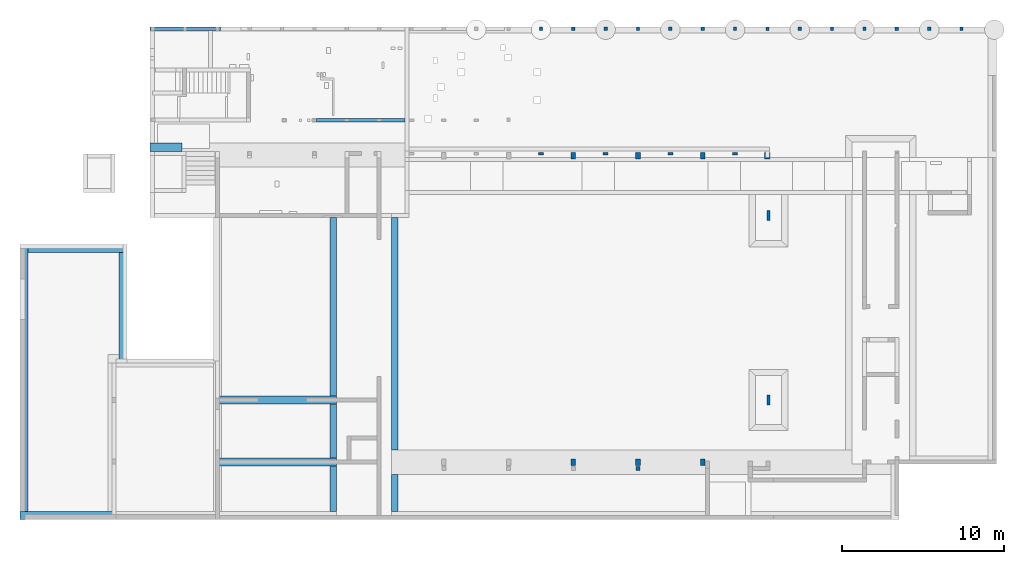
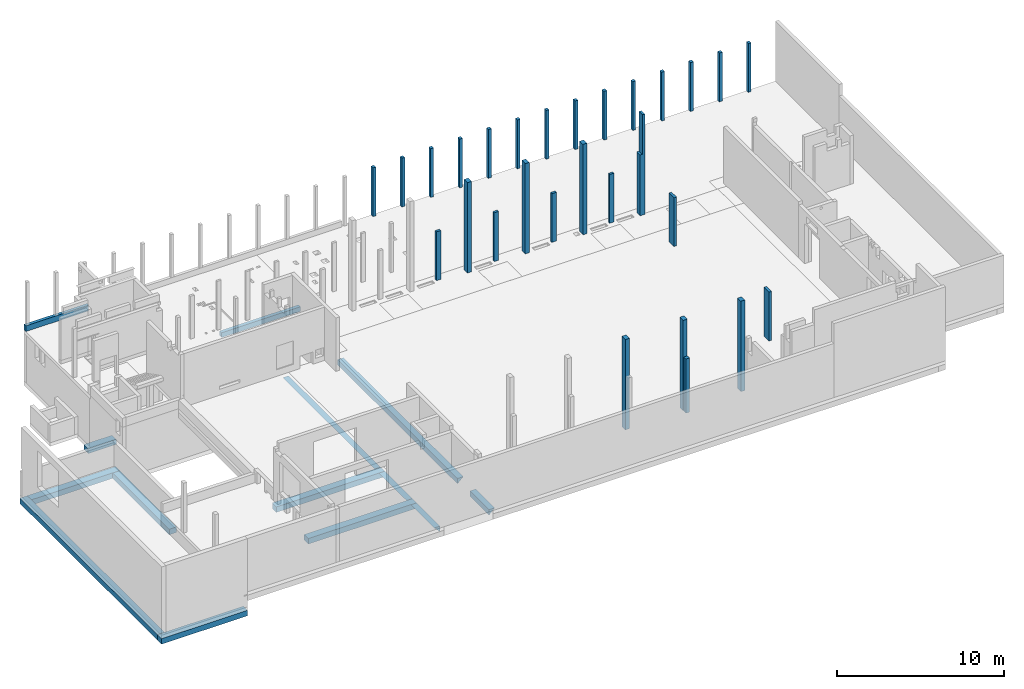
# One storey, part 2 of 12: 28 columns, 11 beams.
"""IFC2X3 building model written with IfcOpenShell, lengths in metres."""

from ifc_helpers import new_model, entity, si_unit, converted_unit, direction, frame, frame_2d, origin, origin_2d_with_axis, place, context, subcontext, project, spatial, polyline, rectangle, outline, extrude, source, transform, mapped, material, type_object, type_shapes, element, save


model = new_model("IFC2X3")

# Units and contexts
model_context = context("Model", 3, precision=1e-05, world=frame((30.086303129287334, 2.687674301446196, 462.0)), true_north=direction((0.19008937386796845, 0.9817667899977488)))
body_context = subcontext(model_context, "Body", "Model", "MODEL_VIEW")
ifc_project = project(units=[si_unit("LENGTHUNIT", "METRE"), si_unit("AREAUNIT", "SQUARE_METRE"), converted_unit("PLANEANGLEUNIT", "DEGREE", entity("IfcPlaneAngleMeasure", 0.017453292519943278), si_unit("PLANEANGLEUNIT", "RADIAN"), dimensions=[0, 0, 0, 0, 0, 0, 0]), si_unit("VOLUMEUNIT", "CUBIC_METRE")], contexts=[model_context])

# Site, building, storey
site_placement = place(None, origin())
site = spatial("IfcSite", under=ifc_project, at=site_placement, Name="Default", CompositionType="ELEMENT")
building_placement = place(site_placement, origin())
building = spatial("IfcBuilding", under=site, at=building_placement, CompositionType="ELEMENT")
storey_placement = place(building_placement, frame((0.0, 0.0, -3.800000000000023)))
storey = spatial("IfcBuildingStorey", under=building, at=storey_placement, Name="FB_U01_OKFB", CompositionType="ELEMENT", Elevation=-3.800000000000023)

# Columns
ifc_material_1 = material(Name="WS_CONCRETE_REINFORCED")
column_type_1 = type_object("IfcColumnType", Name="WS_CCL_REC:CCL_REC_250x250", PredefinedType="COLUMN", material=ifc_material_1)
shared_shape_1 = source(origin(), body_context, "Body", "SweptSolid", [
    extrude(rectangle(XDim=0.25000000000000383, YDim=0.2499999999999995, at=frame_2d((-4.336808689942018e-15, -2.1718737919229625e-15), x_axis=(1.0, 0.0))), frame((76.10533735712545, -20.76455991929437, -0.12), z_axis=(0.0, 0.0, 1.0), x_axis=(-1.0, 0.0, 0.0)), (0.0, 0.0, 1.0), 3.969999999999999),
])
type_shapes(column_type_1, [shared_shape_1])
column_1_placement = place(storey_placement, frame((0.0, 0.0, 3.800000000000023)))
element("IfcColumn", 1, at=column_1_placement, inside=storey, type_object=column_type_1, material=ifc_material_1, Name="WS_CCL_REC:CCL_REC_250x250", ObjectType="WS_CCL_REC:CCL_REC_250x250", context=body_context, shape_type="MappedRepresentation", body=[
    mapped(shared_shape_1, transform((0.0, 0.0, 0.0), scale=1.0)),
])
ifc_material_2 = material(Name="WS_TIMBER_GLT_0°")
column_type_2 = type_object("IfcColumnType", Name="WS_TCL_GLT:TCL_GLT_200x220", PredefinedType="COLUMN", material=ifc_material_2)
shared_shape_2 = source(origin(), body_context, "Body", "SweptSolid", [
    extrude(rectangle(XDim=0.19999999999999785, YDim=0.2199999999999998, at=frame_2d((4.3298697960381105e-15, 0.0), x_axis=(1.0, 0.0))), frame((70.10533822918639, 6.420351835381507, -0.12), z_axis=(0.0, 0.0, 1.0), x_axis=(-1.0, 0.0, 0.0)), (0.0, 0.0, 1.0), 3.5749999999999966),
])
type_shapes(column_type_2, [shared_shape_2])
column_2_placement = place(storey_placement, frame((0.0, 0.0, 3.800000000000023)))
element("IfcColumn", 2, at=column_2_placement, inside=storey, type_object=column_type_2, material=ifc_material_2, Name="WS_TCL_GLT:TCL_GLT_200x220", ObjectType="WS_TCL_GLT:TCL_GLT_200x220", context=body_context, shape_type="MappedRepresentation", body=[
    mapped(shared_shape_2, transform((0.0, 0.0, 0.0), scale=1.0)),
])
ifc_material_3 = material(Name="WS_TIMBER_GLT_90°")
column_type_3 = type_object("IfcColumnType", Name="WS_TCL_GLT:TCL_GLT_160/300", PredefinedType="COLUMN", material=ifc_material_3)
shared_shape_3 = source(origin(), body_context, "Body", "SweptSolid", [
    extrude(rectangle(XDim=0.15999999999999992, YDim=0.3000000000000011, at=frame_2d((1.3183898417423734e-16, 0.0), x_axis=(1.0, 0.0))), frame((82.10533693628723, -1.314602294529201, -0.12), z_axis=(0.0, 0.0, 1.0), x_axis=(0.0, -1.0, 0.0)), (0.0, 0.0, 1.0), 3.5749999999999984),
])
type_shapes(column_type_3, [shared_shape_3])
column_3_placement = place(storey_placement, frame((0.0, 0.0, 3.800000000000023)))
element("IfcColumn", 3, at=column_3_placement, inside=storey, type_object=column_type_3, material=ifc_material_3, Name="WS_TCL_GLT:TCL_GLT_160/300", ObjectType="WS_TCL_GLT:TCL_GLT_160/300", context=body_context, shape_type="MappedRepresentation", body=[
    mapped(shared_shape_3, transform((0.0, 0.0, 0.0), scale=1.0)),
])
column_type_4 = type_object("IfcColumnType", Name="WS_TCL_GLT:TCL_GLT_280x400", PredefinedType="COLUMN", material=ifc_material_2)
shared_shape_4 = source(origin(), body_context, "Body", "SweptSolid", [
    extrude(rectangle(XDim=0.4, YDim=0.279999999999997, at=origin_2d_with_axis()), frame((76.1053391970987, -1.434602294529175, -0.12), z_axis=(0.0, 0.0, 1.0), x_axis=(0.0, -1.0, 0.0)), (0.0, 0.0, 1.0), 6.62),
])
type_shapes(column_type_4, [shared_shape_4])
column_4_placement = place(storey_placement, frame((0.0, 0.0, 3.800000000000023)))
element("IfcColumn", 4, at=column_4_placement, inside=storey, type_object=column_type_4, material=ifc_material_2, Name="WS_TCL_GLT:TCL_GLT_280x400", ObjectType="WS_TCL_GLT:TCL_GLT_280x400", context=body_context, shape_type="MappedRepresentation", body=[
    mapped(shared_shape_4, transform((0.0, 0.0, 0.0), scale=1.0)),
])
column_type_5 = type_object("IfcColumnType", Name="WS_TCL_GLT:TCL_GLT_280x400", PredefinedType="COLUMN", material=ifc_material_2)
shared_shape_5 = source(origin(), body_context, "Body", "SweptSolid", [
    extrude(rectangle(XDim=0.4, YDim=0.28000000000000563, at=origin_2d_with_axis()), frame((80.10533919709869, -1.434602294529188, -0.12), z_axis=(0.0, 0.0, 1.0), x_axis=(0.0, -1.0, 0.0)), (0.0, 0.0, 1.0), 6.62),
])
type_shapes(column_type_5, [shared_shape_5])
column_5_placement = place(storey_placement, frame((0.0, 0.0, 3.800000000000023)))
element("IfcColumn", 5, at=column_5_placement, inside=storey, type_object=column_type_5, material=ifc_material_2, Name="WS_TCL_GLT:TCL_GLT_280x400", ObjectType="WS_TCL_GLT:TCL_GLT_280x400", context=body_context, shape_type="MappedRepresentation", body=[
    mapped(shared_shape_5, transform((0.0, 0.0, 0.0), scale=1.0)),
])
column_type_6 = type_object("IfcColumnType", Name="WS_TCL_GLT:TCL_GLT_330x400", PredefinedType="COLUMN", material=ifc_material_2)
shared_shape_6 = source(origin(), body_context, "Body", "SweptSolid", [
    extrude(outline(polyline([(-3.938333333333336, -0.15999999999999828), (0.5166666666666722, -0.15999999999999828), (0.5166666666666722, -0.009999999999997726), (3.4216666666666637, -0.009999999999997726), (3.4216666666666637, 0.16999999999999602), (-3.938333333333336, 0.16999999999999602), (-3.938333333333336, -0.15999999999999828)])), frame((84.0853391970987, -1.6346022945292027, 3.8183333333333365), z_axis=(0.0, 1.0, 0.0), x_axis=(0.0, 0.0, 1.0)), (0.0, 0.0, 1.0), 0.4),
])
type_shapes(column_type_6, [shared_shape_6])
column_6_placement = place(storey_placement, frame((0.0, 0.0, 3.800000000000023)))
element("IfcColumn", 6, at=column_6_placement, inside=storey, type_object=column_type_6, material=ifc_material_2, Name="WS_TCL_GLT:TCL_GLT_330x400", ObjectType="WS_TCL_GLT:TCL_GLT_330x400", context=body_context, shape_type="MappedRepresentation", body=[
    mapped(shared_shape_6, transform((0.0, 0.0, 0.0), scale=1.0)),
])
column_type_7 = type_object("IfcColumnType", Name="WS_TCL_GLT:TCL_GLT_280x400", PredefinedType="COLUMN", material=ifc_material_2)
shared_shape_7 = source(origin(), body_context, "Body", "SweptSolid", [
    extrude(rectangle(XDim=0.4, YDim=0.279999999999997, at=origin_2d_with_axis()), frame((72.10533919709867, -1.4346022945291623, -0.12), z_axis=(0.0, 0.0, 1.0), x_axis=(0.0, -1.0, 0.0)), (0.0, 0.0, 1.0), 6.62),
])
type_shapes(column_type_7, [shared_shape_7])
column_7_placement = place(storey_placement, frame((0.0, 0.0, 3.800000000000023)))
element("IfcColumn", 7, at=column_7_placement, inside=storey, type_object=column_type_7, material=ifc_material_2, Name="WS_TCL_GLT:TCL_GLT_280x400", ObjectType="WS_TCL_GLT:TCL_GLT_280x400", context=body_context, shape_type="MappedRepresentation", body=[
    mapped(shared_shape_7, transform((0.0, 0.0, 0.0), scale=1.0)),
])
column_type_8 = type_object("IfcColumnType", Name="WS_TCL_GLT:TCL_GLT_280x400", PredefinedType="COLUMN", material=ifc_material_2)
shared_shape_8 = source(origin(), body_context, "Body", "SweptSolid", [
    extrude(rectangle(XDim=0.279999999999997, YDim=0.4, at=frame_2d((-4.3298697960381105e-15, 2.1649348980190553e-15), x_axis=(1.0, 0.0))), frame((76.10533919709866, -20.384651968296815, -0.12), z_axis=(0.0, 0.0, 1.0), x_axis=(-1.0, 0.0, 0.0)), (0.0, 0.0, 1.0), 6.62),
])
type_shapes(column_type_8, [shared_shape_8])
column_8_placement = place(storey_placement, frame((0.0, 0.0, 3.800000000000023)))
element("IfcColumn", 8, at=column_8_placement, inside=storey, type_object=column_type_8, material=ifc_material_2, Name="WS_TCL_GLT:TCL_GLT_280x400", ObjectType="WS_TCL_GLT:TCL_GLT_280x400", context=body_context, shape_type="MappedRepresentation", body=[
    mapped(shared_shape_8, transform((0.0, 0.0, 0.0), scale=1.0)),
])
column_type_9 = type_object("IfcColumnType", Name="WS_TCL_GLT:TCL_GLT_280x400", PredefinedType="COLUMN", material=ifc_material_2)
shared_shape_9 = source(origin(), body_context, "Body", "SweptSolid", [
    extrude(rectangle(XDim=0.28000000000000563, YDim=0.4, at=frame_2d((0.0, 2.1649348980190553e-15), x_axis=(1.0, 0.0))), frame((80.10533919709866, -20.384651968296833, -0.12), z_axis=(0.0, 0.0, 1.0), x_axis=(-1.0, 0.0, 0.0)), (0.0, 0.0, 1.0), 6.62),
])
type_shapes(column_type_9, [shared_shape_9])
column_9_placement = place(storey_placement, frame((0.0, 0.0, 3.800000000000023)))
element("IfcColumn", 9, at=column_9_placement, inside=storey, type_object=column_type_9, material=ifc_material_2, Name="WS_TCL_GLT:TCL_GLT_280x400", ObjectType="WS_TCL_GLT:TCL_GLT_280x400", context=body_context, shape_type="MappedRepresentation", body=[
    mapped(shared_shape_9, transform((0.0, 0.0, 0.0), scale=1.0)),
])
column_type_10 = type_object("IfcColumnType", Name="WS_TCL_GLT:TCL_GLT_280x400", PredefinedType="COLUMN", material=ifc_material_2)
shared_shape_10 = source(origin(), body_context, "Body", "SweptSolid", [
    extrude(rectangle(XDim=0.279999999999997, YDim=0.4, at=frame_2d((-4.3298697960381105e-15, -2.1649348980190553e-15), x_axis=(1.0, 0.0))), frame((72.10533919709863, -20.38465196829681, -0.12), z_axis=(0.0, 0.0, 1.0), x_axis=(-1.0, 0.0, 0.0)), (0.0, 0.0, 1.0), 6.62),
])
type_shapes(column_type_10, [shared_shape_10])
column_10_placement = place(storey_placement, frame((0.0, 0.0, 3.800000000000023)))
element("IfcColumn", 10, at=column_10_placement, inside=storey, type_object=column_type_10, material=ifc_material_2, Name="WS_TCL_GLT:TCL_GLT_280x400", ObjectType="WS_TCL_GLT:TCL_GLT_280x400", context=body_context, shape_type="MappedRepresentation", body=[
    mapped(shared_shape_10, transform((0.0, 0.0, 0.0), scale=1.0)),
])
column_type_11 = type_object("IfcColumnType", Name="WS_TCL_GLT:TCL_GLT_180x600", PredefinedType="COLUMN", material=ifc_material_2)
shared_shape_11 = source(origin(), body_context, "Body", "SweptSolid", [
    extrude(rectangle(XDim=0.6000000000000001, YDim=0.17999999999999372, at=origin_2d_with_axis()), frame((84.16533919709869, -5.134602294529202, -0.12), z_axis=(0.0, 0.0, 1.0), x_axis=(0.0, -1.0, 0.0)), (0.0, 0.0, 1.0), 3.5749999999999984),
])
type_shapes(column_type_11, [shared_shape_11])
column_11_placement = place(storey_placement, frame((0.0, 0.0, 3.800000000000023)))
element("IfcColumn", 11, at=column_11_placement, inside=storey, type_object=column_type_11, material=ifc_material_2, Name="WS_TCL_GLT:TCL_GLT_180x600", ObjectType="WS_TCL_GLT:TCL_GLT_180x600", context=body_context, shape_type="MappedRepresentation", body=[
    mapped(shared_shape_11, transform((0.0, 0.0, 0.0), scale=1.0)),
])
column_type_12 = type_object("IfcColumnType", Name="WS_TCL_GLT:TCL_GLT_180x600", PredefinedType="COLUMN", material=ifc_material_2)
shared_shape_12 = source(origin(), body_context, "Body", "SweptSolid", [
    extrude(rectangle(XDim=0.6000000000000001, YDim=0.17999999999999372, at=frame_2d((2.1649348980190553e-15, 0.0), x_axis=(1.0, 0.0))), frame((84.16533919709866, -16.534601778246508, -0.12), z_axis=(0.0, 0.0, 1.0), x_axis=(0.0, -1.0, 0.0)), (0.0, 0.0, 1.0), 3.5749999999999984),
])
type_shapes(column_type_12, [shared_shape_12])
column_12_placement = place(storey_placement, frame((0.0, 0.0, 3.800000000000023)))
element("IfcColumn", 12, at=column_12_placement, inside=storey, type_object=column_type_12, material=ifc_material_2, Name="WS_TCL_GLT:TCL_GLT_180x600", ObjectType="WS_TCL_GLT:TCL_GLT_180x600", context=body_context, shape_type="MappedRepresentation", body=[
    mapped(shared_shape_12, transform((0.0, 0.0, 0.0), scale=1.0)),
])
column_type_13 = type_object("IfcColumnType", Name="WS_TCL_GLT:TCL_GLT_200x220", PredefinedType="COLUMN", material=ifc_material_2)
shared_shape_13 = source(origin(), body_context, "Body", "SweptSolid", [
    extrude(rectangle(XDim=0.19999999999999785, YDim=0.2199999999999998, at=frame_2d((4.3298697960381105e-15, 0.0), x_axis=(1.0, 0.0))), frame((72.10533597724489, 6.420351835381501, -0.12), z_axis=(0.0, 0.0, 1.0), x_axis=(-1.0, 0.0, 0.0)), (0.0, 0.0, 1.0), 3.5749999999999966),
])
type_shapes(column_type_13, [shared_shape_13])
column_13_placement = place(storey_placement, frame((0.0, 0.0, 3.800000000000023)))
element("IfcColumn", 13, at=column_13_placement, inside=storey, type_object=column_type_13, material=ifc_material_2, Name="WS_TCL_GLT:TCL_GLT_200x220", ObjectType="WS_TCL_GLT:TCL_GLT_200x220", context=body_context, shape_type="MappedRepresentation", body=[
    mapped(shared_shape_13, transform((0.0, 0.0, 0.0), scale=1.0)),
])
column_type_14 = type_object("IfcColumnType", Name="WS_TCL_GLT:TCL_GLT_200x220", PredefinedType="COLUMN", material=ifc_material_2)
shared_shape_14 = source(origin(), body_context, "Body", "SweptSolid", [
    extrude(rectangle(XDim=0.19999999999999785, YDim=0.2199999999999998, at=frame_2d((4.3298697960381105e-15, 0.0), x_axis=(1.0, 0.0))), frame((76.10533597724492, 6.420351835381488, -0.12), z_axis=(0.0, 0.0, 1.0), x_axis=(-1.0, 0.0, 0.0)), (0.0, 0.0, 1.0), 3.5749999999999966),
])
type_shapes(column_type_14, [shared_shape_14])
column_14_placement = place(storey_placement, frame((0.0, 0.0, 3.800000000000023)))
element("IfcColumn", 14, at=column_14_placement, inside=storey, type_object=column_type_14, material=ifc_material_2, Name="WS_TCL_GLT:TCL_GLT_200x220", ObjectType="WS_TCL_GLT:TCL_GLT_200x220", context=body_context, shape_type="MappedRepresentation", body=[
    mapped(shared_shape_14, transform((0.0, 0.0, 0.0), scale=1.0)),
])
column_type_15 = type_object("IfcColumnType", Name="WS_TCL_GLT:TCL_GLT_200x220", PredefinedType="COLUMN", material=ifc_material_2)
shared_shape_15 = source(origin(), body_context, "Body", "SweptSolid", [
    extrude(rectangle(XDim=0.2000000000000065, YDim=0.2199999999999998, at=frame_2d((-8.659739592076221e-15, 0.0), x_axis=(1.0, 0.0))), frame((80.10533597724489, 6.420351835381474, -0.12), z_axis=(0.0, 0.0, 1.0), x_axis=(-1.0, 0.0, 0.0)), (0.0, 0.0, 1.0), 3.5749999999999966),
])
type_shapes(column_type_15, [shared_shape_15])
column_15_placement = place(storey_placement, frame((0.0, 0.0, 3.800000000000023)))
element("IfcColumn", 15, at=column_15_placement, inside=storey, type_object=column_type_15, material=ifc_material_2, Name="WS_TCL_GLT:TCL_GLT_200x220", ObjectType="WS_TCL_GLT:TCL_GLT_200x220", context=body_context, shape_type="MappedRepresentation", body=[
    mapped(shared_shape_15, transform((0.0, 0.0, 0.0), scale=1.0)),
])
column_type_16 = type_object("IfcColumnType", Name="WS_TCL_GLT:TCL_GLT_200x220", PredefinedType="COLUMN", material=ifc_material_2)
shared_shape_16 = source(origin(), body_context, "Body", "SweptSolid", [
    extrude(rectangle(XDim=0.2000000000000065, YDim=0.2199999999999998, at=frame_2d((-8.659739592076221e-15, 0.0), x_axis=(1.0, 0.0))), frame((84.10533597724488, 6.420351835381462, -0.12), z_axis=(0.0, 0.0, 1.0), x_axis=(-1.0, 0.0, 0.0)), (0.0, 0.0, 1.0), 3.5749999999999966),
])
type_shapes(column_type_16, [shared_shape_16])
column_16_placement = place(storey_placement, frame((0.0, 0.0, 3.800000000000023)))
element("IfcColumn", 16, at=column_16_placement, inside=storey, type_object=column_type_16, material=ifc_material_2, Name="WS_TCL_GLT:TCL_GLT_200x220", ObjectType="WS_TCL_GLT:TCL_GLT_200x220", context=body_context, shape_type="MappedRepresentation", body=[
    mapped(shared_shape_16, transform((0.0, 0.0, 0.0), scale=1.0)),
])
column_type_17 = type_object("IfcColumnType", Name="WS_TCL_GLT:TCL_GLT_200x220", PredefinedType="COLUMN", material=ifc_material_2)
shared_shape_17 = source(origin(), body_context, "Body", "SweptSolid", [
    extrude(rectangle(XDim=0.2000000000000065, YDim=0.2199999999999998, at=frame_2d((-8.659739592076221e-15, 0.0), x_axis=(1.0, 0.0))), frame((90.1053359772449, 6.420351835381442, -0.12), z_axis=(0.0, 0.0, 1.0), x_axis=(-1.0, 0.0, 0.0)), (0.0, 0.0, 1.0), 3.5749999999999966),
])
type_shapes(column_type_17, [shared_shape_17])
column_17_placement = place(storey_placement, frame((0.0, 0.0, 3.800000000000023)))
element("IfcColumn", 17, at=column_17_placement, inside=storey, type_object=column_type_17, material=ifc_material_2, Name="WS_TCL_GLT:TCL_GLT_200x220", ObjectType="WS_TCL_GLT:TCL_GLT_200x220", context=body_context, shape_type="MappedRepresentation", body=[
    mapped(shared_shape_17, transform((0.0, 0.0, 0.0), scale=1.0)),
])
column_type_18 = type_object("IfcColumnType", Name="WS_TCL_GLT:TCL_GLT_200x220", PredefinedType="COLUMN", material=ifc_material_2)
shared_shape_18 = source(origin(), body_context, "Body", "SweptSolid", [
    extrude(rectangle(XDim=0.2000000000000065, YDim=0.2199999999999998, at=frame_2d((-8.659739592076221e-15, 0.0), x_axis=(1.0, 0.0))), frame((92.10533597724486, 6.420351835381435, -0.12), z_axis=(0.0, 0.0, 1.0), x_axis=(-1.0, 0.0, 0.0)), (0.0, 0.0, 1.0), 3.5749999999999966),
])
type_shapes(column_type_18, [shared_shape_18])
column_18_placement = place(storey_placement, frame((0.0, 0.0, 3.800000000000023)))
element("IfcColumn", 18, at=column_18_placement, inside=storey, type_object=column_type_18, material=ifc_material_2, Name="WS_TCL_GLT:TCL_GLT_200x220", ObjectType="WS_TCL_GLT:TCL_GLT_200x220", context=body_context, shape_type="MappedRepresentation", body=[
    mapped(shared_shape_18, transform((0.0, 0.0, 0.0), scale=1.0)),
])
column_type_19 = type_object("IfcColumnType", Name="WS_TCL_GLT:TCL_GLT_200x220", PredefinedType="COLUMN", material=ifc_material_2)
shared_shape_19 = source(origin(), body_context, "Body", "SweptSolid", [
    extrude(rectangle(XDim=0.19999999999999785, YDim=0.2199999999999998, at=frame_2d((4.3298697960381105e-15, 0.0), x_axis=(1.0, 0.0))), frame((74.1053382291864, 6.420351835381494, -0.12), z_axis=(0.0, 0.0, 1.0), x_axis=(-1.0, 0.0, 0.0)), (0.0, 0.0, 1.0), 3.5749999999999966),
])
type_shapes(column_type_19, [shared_shape_19])
column_19_placement = place(storey_placement, frame((0.0, 0.0, 3.800000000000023)))
element("IfcColumn", 19, at=column_19_placement, inside=storey, type_object=column_type_19, material=ifc_material_2, Name="WS_TCL_GLT:TCL_GLT_200x220", ObjectType="WS_TCL_GLT:TCL_GLT_200x220", context=body_context, shape_type="MappedRepresentation", body=[
    mapped(shared_shape_19, transform((0.0, 0.0, 0.0), scale=1.0)),
])
column_type_20 = type_object("IfcColumnType", Name="WS_TCL_GLT:TCL_GLT_200x220", PredefinedType="COLUMN", material=ifc_material_2)
shared_shape_20 = source(origin(), body_context, "Body", "SweptSolid", [
    extrude(rectangle(XDim=0.19999999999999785, YDim=0.2199999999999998, at=frame_2d((4.3298697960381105e-15, 0.0), x_axis=(1.0, 0.0))), frame((78.1053382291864, 6.4203518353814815, -0.12), z_axis=(0.0, 0.0, 1.0), x_axis=(-1.0, 0.0, 0.0)), (0.0, 0.0, 1.0), 3.5749999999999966),
])
type_shapes(column_type_20, [shared_shape_20])
column_20_placement = place(storey_placement, frame((0.0, 0.0, 3.800000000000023)))
element("IfcColumn", 20, at=column_20_placement, inside=storey, type_object=column_type_20, material=ifc_material_2, Name="WS_TCL_GLT:TCL_GLT_200x220", ObjectType="WS_TCL_GLT:TCL_GLT_200x220", context=body_context, shape_type="MappedRepresentation", body=[
    mapped(shared_shape_20, transform((0.0, 0.0, 0.0), scale=1.0)),
])
column_type_21 = type_object("IfcColumnType", Name="WS_TCL_GLT:TCL_GLT_200x220", PredefinedType="COLUMN", material=ifc_material_2)
shared_shape_21 = source(origin(), body_context, "Body", "SweptSolid", [
    extrude(rectangle(XDim=0.2000000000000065, YDim=0.2199999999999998, at=frame_2d((-8.659739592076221e-15, 0.0), x_axis=(1.0, 0.0))), frame((82.10533822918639, 6.420351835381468, -0.12), z_axis=(0.0, 0.0, 1.0), x_axis=(-1.0, 0.0, 0.0)), (0.0, 0.0, 1.0), 3.5749999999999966),
])
type_shapes(column_type_21, [shared_shape_21])
column_21_placement = place(storey_placement, frame((0.0, 0.0, 3.800000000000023)))
element("IfcColumn", 21, at=column_21_placement, inside=storey, type_object=column_type_21, material=ifc_material_2, Name="WS_TCL_GLT:TCL_GLT_200x220", ObjectType="WS_TCL_GLT:TCL_GLT_200x220", context=body_context, shape_type="MappedRepresentation", body=[
    mapped(shared_shape_21, transform((0.0, 0.0, 0.0), scale=1.0)),
])
column_type_22 = type_object("IfcColumnType", Name="WS_TCL_GLT:TCL_GLT_200x220", PredefinedType="COLUMN", material=ifc_material_2)
shared_shape_22 = source(origin(), body_context, "Body", "SweptSolid", [
    extrude(rectangle(XDim=0.2000000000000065, YDim=0.2199999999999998, at=frame_2d((-8.659739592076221e-15, 0.0), x_axis=(1.0, 0.0))), frame((88.10533822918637, 6.420351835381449, -0.12), z_axis=(0.0, 0.0, 1.0), x_axis=(-1.0, 0.0, 0.0)), (0.0, 0.0, 1.0), 3.5749999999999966),
])
type_shapes(column_type_22, [shared_shape_22])
column_22_placement = place(storey_placement, frame((0.0, 0.0, 3.800000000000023)))
element("IfcColumn", 22, at=column_22_placement, inside=storey, type_object=column_type_22, material=ifc_material_2, Name="WS_TCL_GLT:TCL_GLT_200x220", ObjectType="WS_TCL_GLT:TCL_GLT_200x220", context=body_context, shape_type="MappedRepresentation", body=[
    mapped(shared_shape_22, transform((0.0, 0.0, 0.0), scale=1.0)),
])
column_type_23 = type_object("IfcColumnType", Name="WS_TCL_GLT:TCL_GLT_200x220", PredefinedType="COLUMN", material=ifc_material_2)
shared_shape_23 = source(origin(), body_context, "Body", "SweptSolid", [
    extrude(rectangle(XDim=0.2000000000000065, YDim=0.2199999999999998, at=frame_2d((-8.659739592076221e-15, 0.0), x_axis=(1.0, 0.0))), frame((86.10533822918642, 6.420351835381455, -0.12), z_axis=(0.0, 0.0, 1.0), x_axis=(-1.0, 0.0, 0.0)), (0.0, 0.0, 1.0), 3.5749999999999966),
])
type_shapes(column_type_23, [shared_shape_23])
column_23_placement = place(storey_placement, frame((0.0, 0.0, 3.800000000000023)))
element("IfcColumn", 23, at=column_23_placement, inside=storey, type_object=column_type_23, material=ifc_material_2, Name="WS_TCL_GLT:TCL_GLT_200x220", ObjectType="WS_TCL_GLT:TCL_GLT_200x220", context=body_context, shape_type="MappedRepresentation", body=[
    mapped(shared_shape_23, transform((0.0, 0.0, 0.0), scale=1.0)),
])
column_type_24 = type_object("IfcColumnType", Name="WS_TCL_GLT:TCL_GLT_200x220", PredefinedType="COLUMN", material=ifc_material_2)
shared_shape_24 = source(origin(), body_context, "Body", "SweptSolid", [
    extrude(rectangle(XDim=0.2000000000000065, YDim=0.2199999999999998, at=frame_2d((-8.659739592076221e-15, 0.0), x_axis=(1.0, 0.0))), frame((94.10533609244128, 6.420351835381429, -0.12), z_axis=(0.0, 0.0, 1.0), x_axis=(-1.0, 0.0, 0.0)), (0.0, 0.0, 1.0), 3.5749999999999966),
])
type_shapes(column_type_24, [shared_shape_24])
column_24_placement = place(storey_placement, frame((0.0, 0.0, 3.800000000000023)))
element("IfcColumn", 24, at=column_24_placement, inside=storey, type_object=column_type_24, material=ifc_material_2, Name="WS_TCL_GLT:TCL_GLT_200x220", ObjectType="WS_TCL_GLT:TCL_GLT_200x220", context=body_context, shape_type="MappedRepresentation", body=[
    mapped(shared_shape_24, transform((0.0, 0.0, 0.0), scale=1.0)),
])
column_type_25 = type_object("IfcColumnType", Name="WS_TCL_GLT:TCL_GLT_200x220", PredefinedType="COLUMN", material=ifc_material_2)
shared_shape_25 = source(origin(), body_context, "Body", "SweptSolid", [
    extrude(rectangle(XDim=0.2000000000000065, YDim=0.2199999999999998, at=frame_2d((8.659739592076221e-15, 0.0), x_axis=(1.0, 0.0))), frame((96.10533728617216, 6.420351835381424, -0.12), z_axis=(0.0, 0.0, 1.0), x_axis=(-1.0, 0.0, 0.0)), (0.0, 0.0, 1.0), 3.5749999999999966),
])
type_shapes(column_type_25, [shared_shape_25])
column_25_placement = place(storey_placement, frame((0.0, 0.0, 3.800000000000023)))
element("IfcColumn", 25, at=column_25_placement, inside=storey, type_object=column_type_25, material=ifc_material_2, Name="WS_TCL_GLT:TCL_GLT_200x220", ObjectType="WS_TCL_GLT:TCL_GLT_200x220", context=body_context, shape_type="MappedRepresentation", body=[
    mapped(shared_shape_25, transform((0.0, 0.0, 0.0), scale=1.0)),
])
column_type_26 = type_object("IfcColumnType", Name="WS_TCL_GLT:TCL_GLT_160/300", PredefinedType="COLUMN", material=ifc_material_3)
shared_shape_26 = source(origin(), body_context, "Body", "SweptSolid", [
    extrude(rectangle(XDim=0.15999999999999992, YDim=0.3000000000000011, at=frame_2d((1.3183898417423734e-16, 0.0), x_axis=(1.0, 0.0))), frame((78.10533730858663, -1.314602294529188, -0.12), z_axis=(0.0, 0.0, 1.0), x_axis=(0.0, -1.0, 0.0)), (0.0, 0.0, 1.0), 3.5749999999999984),
])
type_shapes(column_type_26, [shared_shape_26])
column_26_placement = place(storey_placement, frame((0.0, 0.0, 3.800000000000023)))
element("IfcColumn", 26, at=column_26_placement, inside=storey, type_object=column_type_26, material=ifc_material_3, Name="WS_TCL_GLT:TCL_GLT_160/300", ObjectType="WS_TCL_GLT:TCL_GLT_160/300", context=body_context, shape_type="MappedRepresentation", body=[
    mapped(shared_shape_26, transform((0.0, 0.0, 0.0), scale=1.0)),
])
column_type_27 = type_object("IfcColumnType", Name="WS_TCL_GLT:TCL_GLT_160/300", PredefinedType="COLUMN", material=ifc_material_3)
shared_shape_27 = source(origin(), body_context, "Body", "SweptSolid", [
    extrude(rectangle(XDim=0.15999999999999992, YDim=0.3000000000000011, at=frame_2d((1.3183898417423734e-16, 0.0), x_axis=(1.0, 0.0))), frame((74.105337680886, -1.314602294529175, -0.12), z_axis=(0.0, 0.0, 1.0), x_axis=(0.0, -1.0, 0.0)), (0.0, 0.0, 1.0), 3.5749999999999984),
])
type_shapes(column_type_27, [shared_shape_27])
column_27_placement = place(storey_placement, frame((0.0, 0.0, 3.800000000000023)))
element("IfcColumn", 27, at=column_27_placement, inside=storey, type_object=column_type_27, material=ifc_material_3, Name="WS_TCL_GLT:TCL_GLT_160/300", ObjectType="WS_TCL_GLT:TCL_GLT_160/300", context=body_context, shape_type="MappedRepresentation", body=[
    mapped(shared_shape_27, transform((0.0, 0.0, 0.0), scale=1.0)),
])
column_type_28 = type_object("IfcColumnType", Name="WS_TCL_GLT:TCL_GLT_160/300", PredefinedType="COLUMN", material=ifc_material_3)
shared_shape_28 = source(origin(), body_context, "Body", "SweptSolid", [
    extrude(rectangle(XDim=0.15999999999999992, YDim=0.3000000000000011, at=frame_2d((1.3183898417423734e-16, 0.0), x_axis=(1.0, 0.0))), frame((70.10533805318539, -1.314602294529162, -0.12), z_axis=(0.0, 0.0, 1.0), x_axis=(0.0, -1.0, 0.0)), (0.0, 0.0, 1.0), 3.5749999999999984),
])
type_shapes(column_type_28, [shared_shape_28])
column_28_placement = place(storey_placement, frame((0.0, 0.0, 3.800000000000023)))
element("IfcColumn", 28, at=column_28_placement, inside=storey, type_object=column_type_28, material=ifc_material_3, Name="WS_TCL_GLT:TCL_GLT_160/300", ObjectType="WS_TCL_GLT:TCL_GLT_160/300", context=body_context, shape_type="MappedRepresentation", body=[
    mapped(shared_shape_28, transform((0.0, 0.0, 0.0), scale=1.0)),
])

# Beams
ifc_material_4 = material(Name="WS_CONCRETE_REINFORCED_WATERTIGHT")
beam_type_1 = type_object("IfcBeamType", Name="WS_FDN_REC:FDN_REC_500x650_WT", PredefinedType="BEAM")
beam_1_placement = place(storey_placement, frame((38.055337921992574, -23.664655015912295, 2.580000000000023)))
element("IfcBeam", 29, at=beam_1_placement, inside=storey, type_object=beam_type_1, material=ifc_material_4, Name="WS_FDN_REC:FDN_REC_500x650_WT", ObjectType="WS_FDN_REC:FDN_REC_500x650_WT", context=body_context, shape_type="SweptSolid", body=[
    extrude(rectangle(XDim=0.4000000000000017, YDim=0.500000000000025, at=origin_2d_with_axis()), frame((-0.15000000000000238, 0.0, -0.45000000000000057), z_axis=(1.0, 0.0, 0.0), x_axis=(0.0, 0.0, -1.0)), (0.0, 0.0, 1.0), 5.945967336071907),
])
beam_2_placement = place(storey_placement, frame((38.15533792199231, -23.76465501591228, 2.580000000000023), z_axis=(0.0, 0.0, 1.0), x_axis=(0.0, 1.0, 0.0)))
element("IfcBeam", 30, at=beam_2_placement, inside=storey, type_object=beam_type_1, material=ifc_material_4, Name="WS_FDN_REC:FDN_REC_500x650_WT", ObjectType="WS_FDN_REC:FDN_REC_500x650_WT", context=body_context, shape_type="SweptSolid", body=[
    extrude(rectangle(XDim=0.4000000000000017, YDim=0.499999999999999, at=origin_2d_with_axis()), frame((0.34999999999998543, 0.0, -0.45000000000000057), z_axis=(1.0, 0.0, 0.0), x_axis=(0.0, 0.0, -1.0)), (0.0, 0.0, 1.0), 16.490001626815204),
])
beam_3_placement = place(storey_placement, frame((50.10533735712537, -20.359648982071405, 3.6800000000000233)))
element("IfcBeam", 31, at=beam_3_placement, inside=storey, type_object=beam_type_1, material=ifc_material_4, Name="WS_FDN_REC:FDN_REC_500x650_WT", ObjectType="WS_FDN_REC:FDN_REC_500x650_WT", context=body_context, shape_type="SweptSolid", body=[
    extrude(rectangle(XDim=0.4000000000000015, YDim=0.5000000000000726, at=frame_2d((6.938893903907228e-17, 1.51684220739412e-14), x_axis=(1.0, 0.0))), frame((-0.12499999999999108, 0.0, -0.45000000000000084), z_axis=(1.0, 0.0, 0.0), x_axis=(0.0, 0.0, -1.0)), (0.0, 0.0, 1.0), 7.500000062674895),
])
beam_4_placement = place(storey_placement, frame((50.10533735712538, -16.53464801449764, 3.6800000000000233)))
element("IfcBeam", 32, at=beam_4_placement, inside=storey, type_object=beam_type_1, material=ifc_material_4, Name="WS_FDN_REC:FDN_REC_500x650_WT", ObjectType="WS_FDN_REC:FDN_REC_500x650_WT", context=body_context, shape_type="SweptSolid", body=[
    extrude(rectangle(XDim=0.4000000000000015, YDim=0.5000000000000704, at=frame_2d((6.938893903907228e-17, 1.840194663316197e-14), x_axis=(1.0, 0.0))), frame((-0.12499999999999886, 0.0, -0.45000000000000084), z_axis=(1.0, 0.0, 0.0), x_axis=(0.0, 0.0, -1.0)), (0.0, 0.0, 1.0), 7.500000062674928),
])
beam_5_placement = place(storey_placement, frame((38.055337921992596, -7.174653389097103, 2.5800000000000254)))
element("IfcBeam", 33, at=beam_5_placement, inside=storey, type_object=beam_type_1, material=ifc_material_4, Name="WS_FDN_REC:FDN_REC_500x650_WT", ObjectType="WS_FDN_REC:FDN_REC_500x650_WT", context=body_context, shape_type="SweptSolid", body=[
    extrude(rectangle(XDim=0.39999999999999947, YDim=0.5000000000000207, at=frame_2d((0.0, 6.494804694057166e-15), x_axis=(1.0, 0.0))), frame((0.3499999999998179, 0.0, -0.4500000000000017), z_axis=(1.0, 0.0, 0.0), x_axis=(0.0, 0.0, -1.0)), (0.0, 0.0, 1.0), 6.124998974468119),
])
beam_6_placement = place(storey_placement, frame((44.2803368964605, -14.109649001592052, 2.580000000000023), z_axis=(0.0, 0.0, 1.0), x_axis=(0.0, 1.0, 0.0)))
element("IfcBeam", 34, at=beam_6_placement, inside=storey, type_object=beam_type_1, material=ifc_material_4, Name="WS_FDN_REC:FDN_REC_500x650_WT", ObjectType="WS_FDN_REC:FDN_REC_500x650_WT", context=body_context, shape_type="SweptSolid", body=[
    extrude(rectangle(XDim=0.40000000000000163, YDim=0.499999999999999, at=frame_2d((0.0, -4.343747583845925e-15), x_axis=(1.0, 0.0))), frame((-0.12500000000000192, 0.0, -0.45000000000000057), z_axis=(1.0, 0.0, 0.0), x_axis=(0.0, 0.0, -1.0)), (0.0, 0.0, 1.0), 6.809995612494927),
])
beam_type_2 = type_object("IfcBeamType", Name="WS_FDN_REC:FDN_REC_775x650_WT", PredefinedType="BEAM")
beam_7_placement = place(storey_placement, frame((47.92033900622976, -1.0321478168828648, -0.06999999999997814), z_axis=(0.0, 0.0, 1.0), x_axis=(-1.0, 0.0, 0.0)))
element("IfcBeam", 35, at=beam_7_placement, inside=storey, type_object=beam_type_2, material=ifc_material_4, Name="WS_FDN_REC:FDN_REC_775x650_WT", ObjectType="WS_FDN_REC:FDN_REC_775x650_WT", context=body_context, shape_type="SweptSolid", body=[
    extrude(rectangle(XDim=0.35000000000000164, YDim=0.5250000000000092, at=frame_2d((0.0, 3.1086244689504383e-15), x_axis=(1.0, 0.0))), frame((0.015000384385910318, -0.12500000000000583, -0.4750000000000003), z_axis=(1.0, 0.0, 0.0), x_axis=(0.0, 0.0, -1.0)), (0.0, 0.0, 1.0), 1.9499996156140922),
])
beam_type_3 = type_object("IfcBeamType", Name="WS_FDN_Voute:FDN_REC_250x750_Voute_WT", PredefinedType="BEAM", material=ifc_material_4)
shared_shape_29 = source(origin(), body_context, "Body", "SweptSolid", [
    extrude(outline(polyline([(-0.26666666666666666, -0.13333333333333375), (0.1333333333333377, -0.13333333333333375), (0.1333333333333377, 0.2666666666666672), (-0.26666666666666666, -0.13333333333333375)])), frame((61.01414449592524, -21.13462625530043, -0.5033333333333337), z_axis=(0.0, -1.0, 0.0), x_axis=(-1.0, 0.0, 0.0)), (0.0, 0.0, 1.0), 2.2800287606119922),
    extrude(outline(polyline([(-0.26666666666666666, -0.13333333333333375), (0.133333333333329, -0.13333333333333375), (0.133333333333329, 0.2666666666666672), (-0.26666666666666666, -0.13333333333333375)])), frame((61.01414449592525, -5.259648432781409, -0.5033333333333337), z_axis=(0.0, -1.0, 0.0), x_axis=(-1.0, 0.0, 0.0)), (0.0, 0.0, 1.0), 14.374977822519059),
])
type_shapes(beam_type_3, [shared_shape_29])
beam_8_placement = place(storey_placement, frame((0.0, 0.0, 3.800000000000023)))
element("IfcBeam", 36, at=beam_8_placement, inside=storey, type_object=beam_type_3, material=ifc_material_4, Name="WS_FDN_Voute:FDN_REC_250x750_Voute_WT", ObjectType="WS_FDN_Voute:FDN_REC_250x750_Voute_WT", context=body_context, shape_type="MappedRepresentation", body=[
    mapped(shared_shape_29, transform((0.0, 0.0, 0.0), scale=1.0)),
])
beam_type_4 = type_object("IfcBeamType", Name="WS_FDN_Voute:FDN_REC_250x750_Voute_WT", PredefinedType="BEAM", material=ifc_material_4)
shared_shape_30 = source(origin(), body_context, "Body", "SweptSolid", [
    extrude(outline(polyline([(-0.1333333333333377, -0.13333333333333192), (0.26666666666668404, -0.13333333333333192), (-0.133333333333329, 0.2666666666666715), (-0.1333333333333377, -0.13333333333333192)])), frame((57.34700408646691, -20.609648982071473, -0.5033333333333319), z_axis=(0.0, -1.0, 0.0), x_axis=(-1.0, 0.0, 0.0)), (0.0, 0.0, 1.0), 2.805006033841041),
    extrude(outline(polyline([(-0.13333333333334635, -0.1333333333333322), (0.26666666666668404, -0.1333333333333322), (-0.1333333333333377, 0.26666666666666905), (-0.13333333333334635, -0.1333333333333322)])), frame((57.34700408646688, -5.259648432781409, -0.5033333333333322), z_axis=(0.0, -1.0, 0.0), x_axis=(-1.0, 0.0, 0.0)), (0.0, 0.0, 1.0), 11.024999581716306),
    extrude(outline(polyline([(-0.133333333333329, -0.13333333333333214), (0.2666666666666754, -0.13333333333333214), (-0.133333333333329, 0.2666666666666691), (-0.133333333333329, -0.13333333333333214)])), frame((57.34700408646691, -16.78464801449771, -0.5033333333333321), z_axis=(0.0, -1.0, 0.0), x_axis=(-1.0, 0.0, 0.0)), (0.0, 0.0, 1.0), 3.325000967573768),
])
type_shapes(beam_type_4, [shared_shape_30])
beam_9_placement = place(storey_placement, frame((0.0, 0.0, 3.800000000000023)))
element("IfcBeam", 37, at=beam_9_placement, inside=storey, type_object=beam_type_4, material=ifc_material_4, Name="WS_FDN_Voute:FDN_REC_250x750_Voute_WT", ObjectType="WS_FDN_Voute:FDN_REC_250x750_Voute_WT", context=body_context, shape_type="MappedRepresentation", body=[
    mapped(shared_shape_30, transform((0.0, 0.0, 0.0), scale=1.0)),
])
beam_type_5 = type_object("IfcBeamType", Name="WS_CBM_REC:CBM_REC_240x600", PredefinedType="BEAM")
beam_10_placement = place(storey_placement, frame((61.83033825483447, 0.7603515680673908, 3.6800000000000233), z_axis=(0.0, 0.0, 1.0), x_axis=(-1.0, 0.0, 0.0)))
element("IfcBeam", 38, at=beam_10_placement, inside=storey, type_object=beam_type_5, material=ifc_material_1, Name="WS_CBM_REC:CBM_REC_240x600", ObjectType="WS_CBM_REC:CBM_REC_240x600", context=body_context, shape_type="SweptSolid", body=[
    extrude(rectangle(XDim=0.35000000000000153, YDim=0.24000000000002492, at=frame_2d((6.938893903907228e-17, 5.4817261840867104e-15), x_axis=(1.0, 0.0))), frame((0.12500000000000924, 0.0, -0.4250000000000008), z_axis=(1.0, 0.0, 0.0), x_axis=(0.0, 0.0, -1.0)), (0.0, 0.0, 1.0), 5.460000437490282),
])
beam_type_6 = type_object("IfcBeamType", Name="WS_FDN_REC:FDN_REC_205x670", PredefinedType="BEAM")
beam_11_placement = place(storey_placement, frame((45.95533900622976, 6.412851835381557, 3.4300000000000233)))
element("IfcBeam", 39, at=beam_11_placement, inside=storey, type_object=beam_type_6, material=ifc_material_1, Name="WS_FDN_REC:FDN_REC_205x670", ObjectType="WS_FDN_REC:FDN_REC_205x670", context=body_context, shape_type="SweptSolid", body=[
    extrude(rectangle(XDim=0.41999999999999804, YDim=0.2050000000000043, at=frame_2d((0.0, 1.3530843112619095e-14), x_axis=(1.0, 0.0))), frame((0.0, 0.0, 0.45999999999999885), z_axis=(1.0, 0.0, 0.0), x_axis=(0.0, 0.0, -1.0)), (0.0, 0.0, 1.0), 4.350000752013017),
])

save(model, "model.ifc")
